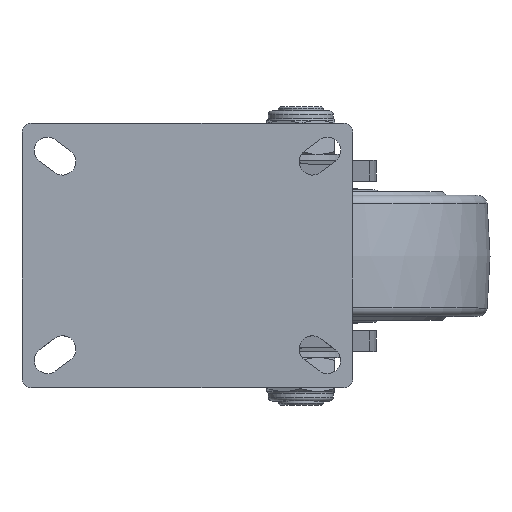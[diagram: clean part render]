
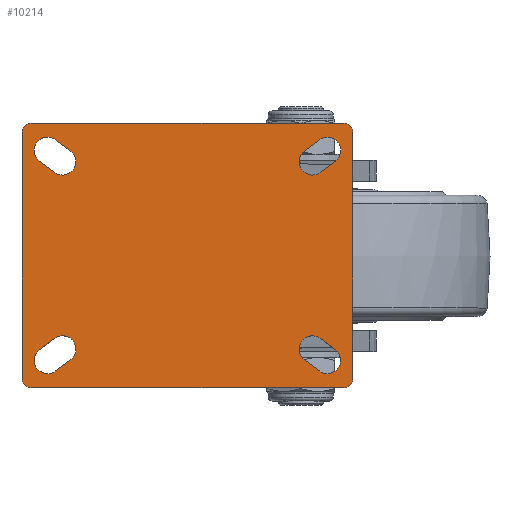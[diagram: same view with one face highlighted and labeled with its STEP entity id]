
A CAD part, top view. The second image highlights one B-rep face of the part: STEP entity #10214.
In plain terms, the highlighted planar face has unit normal (0, 0, 1).
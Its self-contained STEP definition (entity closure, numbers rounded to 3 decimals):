
#9395=CARTESIAN_POINT('',(-53.584,133.43,175.));
#9396=VERTEX_POINT('',#9395);
#9397=CARTESIAN_POINT('',(-58.584,138.43,175.));
#9398=VERTEX_POINT('',#9397);
#9399=CARTESIAN_POINT('',(-53.584,138.43,175.));
#9400=DIRECTION('',(0.0,0.0,-1.));
#9401=DIRECTION('',(-0.707,-0.707,0.0));
#9402=AXIS2_PLACEMENT_3D('',#9399,#9400,#9401);
#9403=CIRCLE('',#9402,5.);
#9404=EDGE_CURVE('',#9396,#9398,#9403,.T.);
#9428=CARTESIAN_POINT('',(-58.584,268.43,175.));
#9429=VERTEX_POINT('',#9428);
#9430=CARTESIAN_POINT('',(-58.584,138.43,175.));
#9431=DIRECTION('',(0.0,1.0,0.0));
#9432=VECTOR('',#9431,130.);
#9433=LINE('',#9430,#9432);
#9434=EDGE_CURVE('',#9398,#9429,#9433,.T.);
#9451=CARTESIAN_POINT('',(-53.584,273.43,175.));
#9452=VERTEX_POINT('',#9451);
#9453=CARTESIAN_POINT('',(-53.584,268.43,175.));
#9454=DIRECTION('',(0.0,0.0,-1.));
#9455=DIRECTION('',(-0.707,0.707,0.0));
#9456=AXIS2_PLACEMENT_3D('',#9453,#9454,#9455);
#9457=CIRCLE('',#9456,5.);
#9458=EDGE_CURVE('',#9429,#9452,#9457,.T.);
#9476=CARTESIAN_POINT('',(111.416,273.43,175.));
#9477=VERTEX_POINT('',#9476);
#9478=CARTESIAN_POINT('',(116.416,268.43,175.));
#9479=VERTEX_POINT('',#9478);
#9480=CARTESIAN_POINT('',(111.416,268.43,175.));
#9481=DIRECTION('',(0.0,0.0,-1.));
#9482=DIRECTION('',(0.707,0.707,0.0));
#9483=AXIS2_PLACEMENT_3D('',#9480,#9481,#9482);
#9484=CIRCLE('',#9483,5.);
#9485=EDGE_CURVE('',#9477,#9479,#9484,.T.);
#9651=CARTESIAN_POINT('',(116.416,138.43,175.));
#9652=VERTEX_POINT('',#9651);
#9653=CARTESIAN_POINT('',(116.416,268.43,175.));
#9654=DIRECTION('',(0.0,-1.0,0.0));
#9655=VECTOR('',#9654,130.0);
#9656=LINE('',#9653,#9655);
#9657=EDGE_CURVE('',#9479,#9652,#9656,.T.);
#9674=CARTESIAN_POINT('',(111.416,133.43,175.));
#9675=VERTEX_POINT('',#9674);
#9676=CARTESIAN_POINT('',(111.416,138.43,175.));
#9677=DIRECTION('',(0.0,0.0,-1.));
#9678=DIRECTION('',(0.707,-0.707,0.0));
#9679=AXIS2_PLACEMENT_3D('',#9676,#9677,#9678);
#9680=CIRCLE('',#9679,5.);
#9681=EDGE_CURVE('',#9652,#9675,#9680,.T.);
#9753=CARTESIAN_POINT('',(-53.584,273.43,175.));
#9754=DIRECTION('',(1.0,0.0,0.0));
#9755=VECTOR('',#9754,165.0);
#9756=LINE('',#9753,#9755);
#9757=EDGE_CURVE('',#9452,#9477,#9756,.T.);
#9774=CARTESIAN_POINT('',(111.416,133.43,175.));
#9775=DIRECTION('',(-1.0,0.0,0.0));
#9776=VECTOR('',#9775,165.0);
#9777=LINE('',#9774,#9776);
#9778=EDGE_CURVE('',#9675,#9396,#9777,.T.);
#9788=CARTESIAN_POINT('',(-41.284,247.33,175.));
#9789=VERTEX_POINT('',#9788);
#9790=CARTESIAN_POINT('',(-32.884,258.53,175.));
#9791=VERTEX_POINT('',#9790);
#9792=CARTESIAN_POINT('',(-37.084,252.93,175.));
#9793=DIRECTION('',(0.0,0.0,1.0));
#9794=DIRECTION('',(1.0,0.0,0.0));
#9795=AXIS2_PLACEMENT_3D('',#9792,#9793,#9794);
#9796=CIRCLE('',#9795,7.);
#9797=EDGE_CURVE('',#9789,#9791,#9796,.T.);
#9820=CARTESIAN_POINT('',(-40.884,264.53,175.));
#9821=VERTEX_POINT('',#9820);
#9822=CARTESIAN_POINT('',(-32.884,258.53,175.));
#9823=DIRECTION('',(-0.8,0.6,0.0));
#9824=VECTOR('',#9823,10.0);
#9825=LINE('',#9822,#9824);
#9826=EDGE_CURVE('',#9791,#9821,#9825,.T.);
#9844=CARTESIAN_POINT('',(-49.284,253.33,175.));
#9845=VERTEX_POINT('',#9844);
#9846=CARTESIAN_POINT('',(-45.084,258.93,175.));
#9847=DIRECTION('',(0.0,0.0,1.0));
#9848=DIRECTION('',(1.0,0.0,0.0));
#9849=AXIS2_PLACEMENT_3D('',#9846,#9847,#9848);
#9850=CIRCLE('',#9849,7.);
#9851=EDGE_CURVE('',#9821,#9845,#9850,.T.);
#9869=CARTESIAN_POINT('',(-49.284,253.33,175.));
#9870=DIRECTION('',(0.8,-0.6,0.0));
#9871=VECTOR('',#9870,10.);
#9872=LINE('',#9869,#9871);
#9873=EDGE_CURVE('',#9845,#9789,#9872,.T.);
#9886=CARTESIAN_POINT('',(-49.284,153.53,175.));
#9887=VERTEX_POINT('',#9886);
#9888=CARTESIAN_POINT('',(-40.884,142.33,175.));
#9889=VERTEX_POINT('',#9888);
#9890=CARTESIAN_POINT('',(-45.084,147.93,175.));
#9891=DIRECTION('',(0.0,0.0,1.0));
#9892=DIRECTION('',(1.0,0.0,0.0));
#9893=AXIS2_PLACEMENT_3D('',#9890,#9891,#9892);
#9894=CIRCLE('',#9893,7.);
#9895=EDGE_CURVE('',#9887,#9889,#9894,.T.);
#9918=CARTESIAN_POINT('',(-32.884,148.33,175.));
#9919=VERTEX_POINT('',#9918);
#9920=CARTESIAN_POINT('',(-40.884,142.33,175.));
#9921=DIRECTION('',(0.8,0.6,0.0));
#9922=VECTOR('',#9921,10.0);
#9923=LINE('',#9920,#9922);
#9924=EDGE_CURVE('',#9889,#9919,#9923,.T.);
#9942=CARTESIAN_POINT('',(-41.284,159.53,175.));
#9943=VERTEX_POINT('',#9942);
#9944=CARTESIAN_POINT('',(-37.084,153.93,175.));
#9945=DIRECTION('',(0.0,0.0,1.0));
#9946=DIRECTION('',(1.0,0.0,0.0));
#9947=AXIS2_PLACEMENT_3D('',#9944,#9945,#9946);
#9948=CIRCLE('',#9947,7.);
#9949=EDGE_CURVE('',#9919,#9943,#9948,.T.);
#9967=CARTESIAN_POINT('',(-41.284,159.53,175.));
#9968=DIRECTION('',(-0.8,-0.6,0.0));
#9969=VECTOR('',#9968,10.);
#9970=LINE('',#9967,#9969);
#9971=EDGE_CURVE('',#9943,#9887,#9970,.T.);
#9984=CARTESIAN_POINT('',(99.116,159.53,175.));
#9985=VERTEX_POINT('',#9984);
#9986=CARTESIAN_POINT('',(90.716,148.33,175.));
#9987=VERTEX_POINT('',#9986);
#9988=CARTESIAN_POINT('',(94.916,153.93,175.));
#9989=DIRECTION('',(0.0,0.0,1.0));
#9990=DIRECTION('',(1.0,0.0,0.0));
#9991=AXIS2_PLACEMENT_3D('',#9988,#9989,#9990);
#9992=CIRCLE('',#9991,7.);
#9993=EDGE_CURVE('',#9985,#9987,#9992,.T.);
#10016=CARTESIAN_POINT('',(98.716,142.33,175.));
#10017=VERTEX_POINT('',#10016);
#10018=CARTESIAN_POINT('',(90.716,148.33,175.));
#10019=DIRECTION('',(0.8,-0.6,0.0));
#10020=VECTOR('',#10019,10.0);
#10021=LINE('',#10018,#10020);
#10022=EDGE_CURVE('',#9987,#10017,#10021,.T.);
#10040=CARTESIAN_POINT('',(107.116,153.53,175.));
#10041=VERTEX_POINT('',#10040);
#10042=CARTESIAN_POINT('',(102.916,147.93,175.));
#10043=DIRECTION('',(0.0,0.0,1.0));
#10044=DIRECTION('',(1.0,0.0,0.0));
#10045=AXIS2_PLACEMENT_3D('',#10042,#10043,#10044);
#10046=CIRCLE('',#10045,7.);
#10047=EDGE_CURVE('',#10017,#10041,#10046,.T.);
#10065=CARTESIAN_POINT('',(107.116,153.53,175.));
#10066=DIRECTION('',(-0.8,0.6,0.0));
#10067=VECTOR('',#10066,10.);
#10068=LINE('',#10065,#10067);
#10069=EDGE_CURVE('',#10041,#9985,#10068,.T.);
#10082=CARTESIAN_POINT('',(107.116,253.33,175.));
#10083=VERTEX_POINT('',#10082);
#10084=CARTESIAN_POINT('',(98.716,264.53,175.));
#10085=VERTEX_POINT('',#10084);
#10086=CARTESIAN_POINT('',(102.916,258.93,175.));
#10087=DIRECTION('',(0.0,0.0,1.0));
#10088=DIRECTION('',(1.0,0.0,0.0));
#10089=AXIS2_PLACEMENT_3D('',#10086,#10087,#10088);
#10090=CIRCLE('',#10089,7.);
#10091=EDGE_CURVE('',#10083,#10085,#10090,.T.);
#10114=CARTESIAN_POINT('',(90.716,258.53,175.));
#10115=VERTEX_POINT('',#10114);
#10116=CARTESIAN_POINT('',(98.716,264.53,175.));
#10117=DIRECTION('',(-0.8,-0.6,0.0));
#10118=VECTOR('',#10117,10.0);
#10119=LINE('',#10116,#10118);
#10120=EDGE_CURVE('',#10085,#10115,#10119,.T.);
#10138=CARTESIAN_POINT('',(99.116,247.33,175.));
#10139=VERTEX_POINT('',#10138);
#10140=CARTESIAN_POINT('',(94.916,252.93,175.));
#10141=DIRECTION('',(0.0,0.0,1.0));
#10142=DIRECTION('',(1.0,0.0,0.0));
#10143=AXIS2_PLACEMENT_3D('',#10140,#10141,#10142);
#10144=CIRCLE('',#10143,7.);
#10145=EDGE_CURVE('',#10115,#10139,#10144,.T.);
#10163=CARTESIAN_POINT('',(99.116,247.33,175.));
#10164=DIRECTION('',(0.8,0.6,0.0));
#10165=VECTOR('',#10164,10.);
#10166=LINE('',#10163,#10165);
#10167=EDGE_CURVE('',#10139,#10083,#10166,.T.);
#10175=CARTESIAN_POINT('',(-41.284,247.33,175.));
#10176=DIRECTION('',(0.0,0.0,1.0));
#10177=DIRECTION('',(1.0,0.0,0.0));
#10178=AXIS2_PLACEMENT_3D('',#10175,#10176,#10177);
#10179=PLANE('',#10178);
#10180=ORIENTED_EDGE('',*,*,#9404,.F.);
#10181=ORIENTED_EDGE('',*,*,#9778,.F.);
#10182=ORIENTED_EDGE('',*,*,#9681,.F.);
#10183=ORIENTED_EDGE('',*,*,#9657,.F.);
#10184=ORIENTED_EDGE('',*,*,#9485,.F.);
#10185=ORIENTED_EDGE('',*,*,#9757,.F.);
#10186=ORIENTED_EDGE('',*,*,#9458,.F.);
#10187=ORIENTED_EDGE('',*,*,#9434,.F.);
#10188=EDGE_LOOP('',(#10180,#10181,#10182,#10183,#10184,#10185,#10186,#10187));
#10189=FACE_OUTER_BOUND('',#10188,.T.);
#10190=ORIENTED_EDGE('',*,*,#10091,.F.);
#10191=ORIENTED_EDGE('',*,*,#10167,.F.);
#10192=ORIENTED_EDGE('',*,*,#10145,.F.);
#10193=ORIENTED_EDGE('',*,*,#10120,.F.);
#10194=EDGE_LOOP('',(#10190,#10191,#10192,#10193));
#10195=FACE_BOUND('',#10194,.T.);
#10196=ORIENTED_EDGE('',*,*,#9993,.F.);
#10197=ORIENTED_EDGE('',*,*,#10069,.F.);
#10198=ORIENTED_EDGE('',*,*,#10047,.F.);
#10199=ORIENTED_EDGE('',*,*,#10022,.F.);
#10200=EDGE_LOOP('',(#10196,#10197,#10198,#10199));
#10201=FACE_BOUND('',#10200,.T.);
#10202=ORIENTED_EDGE('',*,*,#9895,.F.);
#10203=ORIENTED_EDGE('',*,*,#9971,.F.);
#10204=ORIENTED_EDGE('',*,*,#9949,.F.);
#10205=ORIENTED_EDGE('',*,*,#9924,.F.);
#10206=EDGE_LOOP('',(#10202,#10203,#10204,#10205));
#10207=FACE_BOUND('',#10206,.T.);
#10208=ORIENTED_EDGE('',*,*,#9797,.F.);
#10209=ORIENTED_EDGE('',*,*,#9873,.F.);
#10210=ORIENTED_EDGE('',*,*,#9851,.F.);
#10211=ORIENTED_EDGE('',*,*,#9826,.F.);
#10212=EDGE_LOOP('',(#10208,#10209,#10210,#10211));
#10213=FACE_BOUND('',#10212,.T.);
#10214=ADVANCED_FACE('',(#10189,#10195,#10201,#10207,#10213),#10179,.T.);
